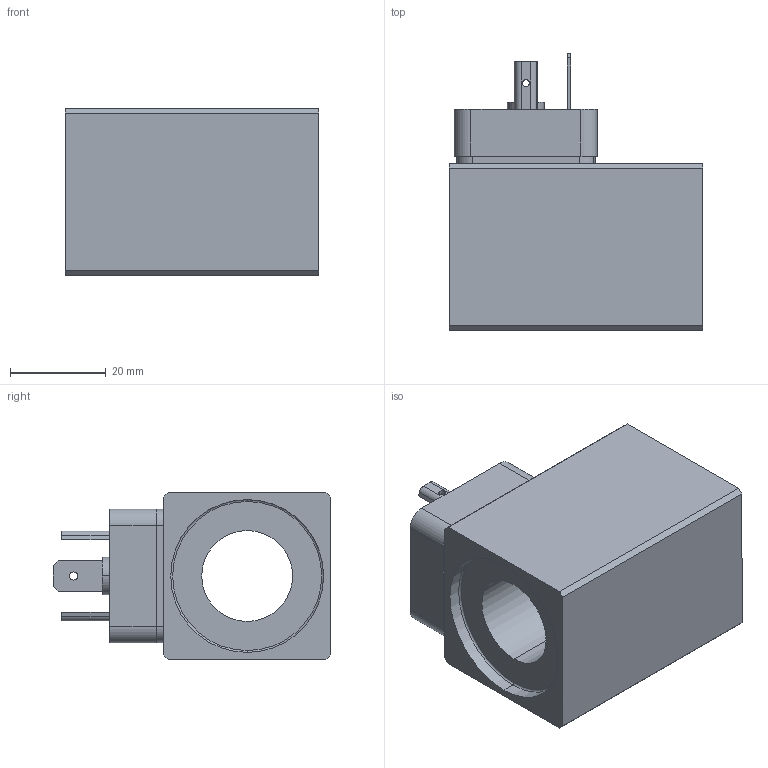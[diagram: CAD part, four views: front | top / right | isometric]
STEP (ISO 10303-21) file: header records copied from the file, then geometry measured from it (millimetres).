
FILE_DESCRIPTION (( 'STEP AP214' ), '1' );
FILE_NAME ('NDS35_19x50.STEP', '2015-07-28T13:33:57', ( '' ), ( '' ), 'SwSTEP 2.0', 'SolidWorks 2014', '' );
FILE_SCHEMA (( 'AUTOMOTIVE_DESIGN' ));
Length unit declared in the file: millimetre
Products named in the file (2): NDS35_19x50
Bounding box: 53 x 58.1 x 35 mm (x, y, z)
Volume: 56201 mm3; surface area: 15804.1 mm2
Topology: 1 solids, 7 shells, 243 faces, 627 edges, 411 vertices
Faces by surface type: plane 166, cylinder 61, bspline 8, torus 6, cone 2
Entity records: 9980 total; most frequent: CARTESIAN_POINT 1460, ORIENTED_EDGE 1254, DIRECTION 1246, EDGE_CURVE 627, VECTOR 444, LINE 444, VERTEX_POINT 411, AXIS2_PLACEMENT_3D 401
